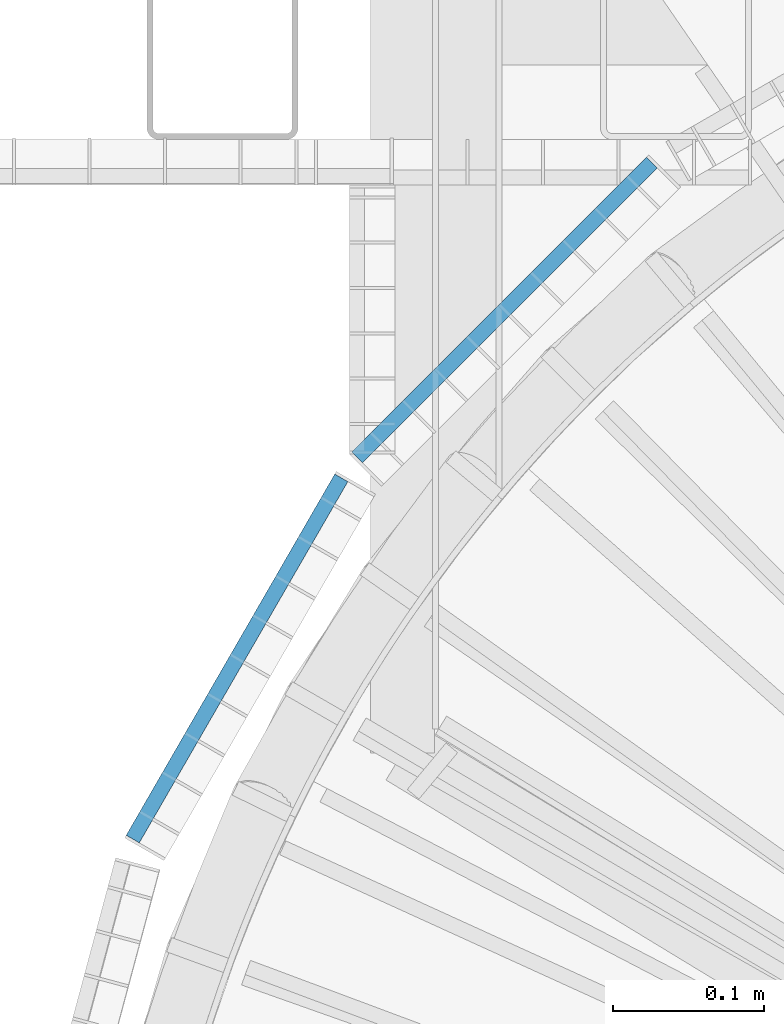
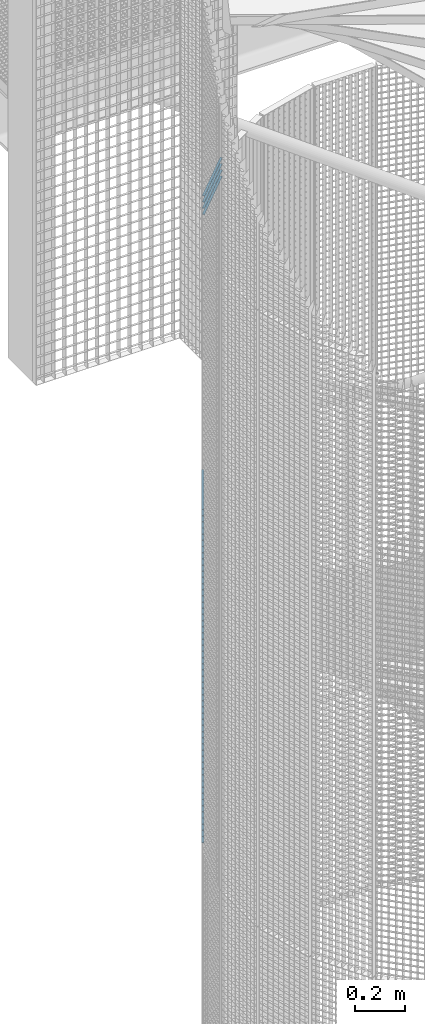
# One storey, part 202 of 1148: 59 beams, 2 elements without a shape of their own.
"""IFC2X3 building model written with IfcOpenShell, lengths in millimetres."""

from ifc_helpers import new_model, si_unit, frame, origin_with_axes, origin_2d_with_axis, place, context, subcontext, project, spatial, rectangle, extrude, material, type_object, element, aggregate, save


model = new_model("IFC2X3")

# Units and contexts
model_context = context("Model", 3, precision=1e-05, world=origin_with_axes())
body_context = subcontext(model_context, "Body", "Model", "MODEL_VIEW")
ifc_project = project(units=[si_unit("LENGTHUNIT", "METRE", prefix="MILLI"), si_unit("AREAUNIT", "SQUARE_METRE"), si_unit("VOLUMEUNIT", "CUBIC_METRE"), si_unit("MASSUNIT", "GRAM", prefix="KILO"), si_unit("TIMEUNIT", "SECOND"), si_unit("PLANEANGLEUNIT", "RADIAN"), si_unit("SOLIDANGLEUNIT", "STERADIAN"), si_unit("THERMODYNAMICTEMPERATUREUNIT", "DEGREE_CELSIUS"), si_unit("LUMINOUSINTENSITYUNIT", "LUMEN")], contexts=[model_context])

# Site, building, storey
site_placement = place(None, origin_with_axes())
site = spatial("IfcSite", under=ifc_project, at=site_placement, Name="Undefined", CompositionType="ELEMENT")
building_placement = place(site_placement, origin_with_axes())
building = spatial("IfcBuilding", under=site, at=building_placement, Name="Undefined", CompositionType="ELEMENT")
storey_placement = place(building_placement, origin_with_axes())
storey = spatial("IfcBuildingStorey", under=building, at=storey_placement, Name="Undefined", CompositionType="ELEMENT", Elevation=0.0)

# Assembly, beams
assembly_1_placement = place(storey_placement, origin_with_axes())
assembly_1 = element("IfcElementAssembly", 1, at=assembly_1_placement, inside=storey, Name="BORDURE", AssemblyPlace="NOTDEFINED", PredefinedType="NOTDEFINED")
ifc_material = material(Name="STEEL/S235JR")
beam_type = type_object("IfcBeamType", Name="PL2*10", PredefinedType="NOTDEFINED")
beam_1_placement = place(assembly_1_placement, frame((-895.303964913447, 676.248044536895, 4650.0), z_axis=(-0.866025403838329, 0.499999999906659, 0.0), x_axis=(-0.49999999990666, -0.866025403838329, 0.0)))
beam_1 = element("IfcBeam", 2, at=beam_1_placement, type_object=beam_type, material=ifc_material, Name="ENTRETOISE", context=body_context, shape_type="SweptSolid", body=[
    extrude(rectangle(XDim=2.0, YDim=10.0, at=origin_2d_with_axis()), frame((275.999999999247, 9.09494701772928e-13, 1.53210777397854e-14), z_axis=(-1.0, 0.0, 0.0), x_axis=(0.0, -1.0, 0.0)), (0.0, 0.0, 1.0), 276.0),
])
beam_2_placement = place(assembly_1_placement, frame((-895.303964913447, 676.248044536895, 4620.0), z_axis=(-0.866025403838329, 0.499999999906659, 0.0), x_axis=(-0.49999999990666, -0.866025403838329, 0.0)))
beam_2 = element("IfcBeam", 3, at=beam_2_placement, type_object=beam_type, material=ifc_material, Name="ENTRETOISE", context=body_context, shape_type="SweptSolid", body=[
    extrude(rectangle(XDim=2.0, YDim=10.0, at=origin_2d_with_axis()), frame((275.999999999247, 9.09494701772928e-13, 1.53210777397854e-14), z_axis=(-1.0, 0.0, 0.0), x_axis=(0.0, -1.0, 0.0)), (0.0, 0.0, 1.0), 276.0),
])
beam_3_placement = place(assembly_1_placement, frame((-895.303964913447, 676.248044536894, 4590.0), z_axis=(-0.866025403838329, 0.499999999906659, 0.0), x_axis=(-0.49999999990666, -0.866025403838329, 0.0)))
beam_3 = element("IfcBeam", 4, at=beam_3_placement, type_object=beam_type, material=ifc_material, Name="ENTRETOISE", context=body_context, shape_type="SweptSolid", body=[
    extrude(rectangle(XDim=2.0, YDim=10.0, at=origin_2d_with_axis()), frame((275.999999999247, 9.09494701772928e-13, 1.53210777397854e-14), z_axis=(-1.0, 0.0, 0.0), x_axis=(0.0, -1.0, 0.0)), (0.0, 0.0, 1.0), 276.0),
])
beam_4_placement = place(assembly_1_placement, frame((-895.303964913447, 676.248044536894, 4560.0), z_axis=(-0.866025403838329, 0.499999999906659, 0.0), x_axis=(-0.49999999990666, -0.866025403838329, 0.0)))
beam_4 = element("IfcBeam", 5, at=beam_4_placement, type_object=beam_type, material=ifc_material, Name="ENTRETOISE", context=body_context, shape_type="SweptSolid", body=[
    extrude(rectangle(XDim=2.0, YDim=10.0, at=origin_2d_with_axis()), frame((275.999999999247, 9.09494701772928e-13, 1.53210777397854e-14), z_axis=(-1.0, 0.0, 0.0), x_axis=(0.0, -1.0, 0.0)), (0.0, 0.0, 1.0), 276.0),
])
beam_5_placement = place(assembly_1_placement, frame((-895.303964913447, 676.248044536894, 4530.0), z_axis=(-0.866025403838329, 0.499999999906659, 0.0), x_axis=(-0.49999999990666, -0.866025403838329, 0.0)))
beam_5 = element("IfcBeam", 6, at=beam_5_placement, type_object=beam_type, material=ifc_material, Name="ENTRETOISE", context=body_context, shape_type="SweptSolid", body=[
    extrude(rectangle(XDim=2.0, YDim=10.0, at=origin_2d_with_axis()), frame((275.999999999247, 9.09494701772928e-13, 1.53210777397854e-14), z_axis=(-1.0, 0.0, 0.0), x_axis=(0.0, -1.0, 0.0)), (0.0, 0.0, 1.0), 276.0),
])
beam_6_placement = place(assembly_1_placement, frame((-895.303964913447, 676.248044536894, 4500.0), z_axis=(-0.866025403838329, 0.499999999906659, 0.0), x_axis=(-0.49999999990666, -0.866025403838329, 0.0)))
beam_6 = element("IfcBeam", 7, at=beam_6_placement, type_object=beam_type, material=ifc_material, Name="ENTRETOISE", context=body_context, shape_type="SweptSolid", body=[
    extrude(rectangle(XDim=2.0, YDim=10.0, at=origin_2d_with_axis()), frame((275.999999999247, 9.09494701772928e-13, 1.53210777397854e-14), z_axis=(-1.0, 0.0, 0.0), x_axis=(0.0, -1.0, 0.0)), (0.0, 0.0, 1.0), 276.0),
])
beam_7_placement = place(assembly_1_placement, frame((-895.303964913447, 676.248044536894, 4470.0), z_axis=(-0.866025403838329, 0.499999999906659, 0.0), x_axis=(-0.49999999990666, -0.866025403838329, 0.0)))
beam_7 = element("IfcBeam", 8, at=beam_7_placement, type_object=beam_type, material=ifc_material, Name="ENTRETOISE", context=body_context, shape_type="SweptSolid", body=[
    extrude(rectangle(XDim=2.0, YDim=10.0, at=origin_2d_with_axis()), frame((275.999999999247, 9.09494701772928e-13, 1.53210777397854e-14), z_axis=(-1.0, 0.0, 0.0), x_axis=(0.0, -1.0, 0.0)), (0.0, 0.0, 1.0), 276.0),
])
beam_8_placement = place(assembly_1_placement, frame((-895.303964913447, 676.248044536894, 4440.0), z_axis=(-0.866025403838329, 0.499999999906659, 0.0), x_axis=(-0.49999999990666, -0.866025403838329, 0.0)))
beam_8 = element("IfcBeam", 9, at=beam_8_placement, type_object=beam_type, material=ifc_material, Name="ENTRETOISE", context=body_context, shape_type="SweptSolid", body=[
    extrude(rectangle(XDim=2.0, YDim=10.0, at=origin_2d_with_axis()), frame((275.999999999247, 9.09494701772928e-13, 1.53210777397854e-14), z_axis=(-1.0, 0.0, 0.0), x_axis=(0.0, -1.0, 0.0)), (0.0, 0.0, 1.0), 276.0),
])
beam_9_placement = place(assembly_1_placement, frame((-895.303964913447, 676.248044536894, 4410.0), z_axis=(-0.866025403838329, 0.499999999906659, 0.0), x_axis=(-0.49999999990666, -0.866025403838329, 0.0)))
beam_9 = element("IfcBeam", 10, at=beam_9_placement, type_object=beam_type, material=ifc_material, Name="ENTRETOISE", context=body_context, shape_type="SweptSolid", body=[
    extrude(rectangle(XDim=2.0, YDim=10.0, at=origin_2d_with_axis()), frame((275.999999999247, 9.09494701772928e-13, 1.53210777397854e-14), z_axis=(-1.0, 0.0, 0.0), x_axis=(0.0, -1.0, 0.0)), (0.0, 0.0, 1.0), 276.0),
])
beam_10_placement = place(assembly_1_placement, frame((-895.303964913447, 676.248044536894, 4380.0), z_axis=(-0.866025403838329, 0.499999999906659, 0.0), x_axis=(-0.49999999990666, -0.866025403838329, 0.0)))
beam_10 = element("IfcBeam", 11, at=beam_10_placement, type_object=beam_type, material=ifc_material, Name="ENTRETOISE", context=body_context, shape_type="SweptSolid", body=[
    extrude(rectangle(XDim=2.0, YDim=10.0, at=origin_2d_with_axis()), frame((275.999999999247, 9.09494701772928e-13, 1.53210777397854e-14), z_axis=(-1.0, 0.0, 0.0), x_axis=(0.0, -1.0, 0.0)), (0.0, 0.0, 1.0), 276.0),
])
beam_11_placement = place(assembly_1_placement, frame((-895.303964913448, 676.248044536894, 4350.0), z_axis=(-0.866025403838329, 0.499999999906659, 0.0), x_axis=(-0.49999999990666, -0.866025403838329, 0.0)))
beam_11 = element("IfcBeam", 12, at=beam_11_placement, type_object=beam_type, material=ifc_material, Name="ENTRETOISE", context=body_context, shape_type="SweptSolid", body=[
    extrude(rectangle(XDim=2.0, YDim=10.0, at=origin_2d_with_axis()), frame((275.999999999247, 9.09494701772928e-13, 1.53210777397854e-14), z_axis=(-1.0, 0.0, 0.0), x_axis=(0.0, -1.0, 0.0)), (0.0, 0.0, 1.0), 276.0),
])
beam_12_placement = place(assembly_1_placement, frame((-895.303964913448, 676.248044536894, 4320.0), z_axis=(-0.866025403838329, 0.499999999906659, 0.0), x_axis=(-0.49999999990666, -0.866025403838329, 0.0)))
beam_12 = element("IfcBeam", 13, at=beam_12_placement, type_object=beam_type, material=ifc_material, Name="ENTRETOISE", context=body_context, shape_type="SweptSolid", body=[
    extrude(rectangle(XDim=2.0, YDim=10.0, at=origin_2d_with_axis()), frame((275.999999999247, 9.09494701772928e-13, 1.53210777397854e-14), z_axis=(-1.0, 0.0, 0.0), x_axis=(0.0, -1.0, 0.0)), (0.0, 0.0, 1.0), 276.0),
])
beam_13_placement = place(assembly_1_placement, frame((-895.303964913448, 676.248044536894, 4290.0), z_axis=(-0.866025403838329, 0.499999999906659, 0.0), x_axis=(-0.49999999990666, -0.866025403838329, 0.0)))
beam_13 = element("IfcBeam", 14, at=beam_13_placement, type_object=beam_type, material=ifc_material, Name="ENTRETOISE", context=body_context, shape_type="SweptSolid", body=[
    extrude(rectangle(XDim=2.0, YDim=10.0, at=origin_2d_with_axis()), frame((275.999999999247, 9.09494701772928e-13, 1.53210777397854e-14), z_axis=(-1.0, 0.0, 0.0), x_axis=(0.0, -1.0, 0.0)), (0.0, 0.0, 1.0), 276.0),
])
beam_14_placement = place(assembly_1_placement, frame((-895.303964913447, 676.248044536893, 4260.0), z_axis=(-0.866025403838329, 0.499999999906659, 0.0), x_axis=(-0.49999999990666, -0.866025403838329, 0.0)))
beam_14 = element("IfcBeam", 15, at=beam_14_placement, type_object=beam_type, material=ifc_material, Name="ENTRETOISE", context=body_context, shape_type="SweptSolid", body=[
    extrude(rectangle(XDim=2.0, YDim=10.0, at=origin_2d_with_axis()), frame((275.999999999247, 9.09494701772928e-13, 1.53210777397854e-14), z_axis=(-1.0, 0.0, 0.0), x_axis=(0.0, -1.0, 0.0)), (0.0, 0.0, 1.0), 276.0),
])
beam_15_placement = place(assembly_1_placement, frame((-895.303964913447, 676.248044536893, 4230.0), z_axis=(-0.866025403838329, 0.499999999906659, 0.0), x_axis=(-0.49999999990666, -0.866025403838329, 0.0)))
beam_15 = element("IfcBeam", 16, at=beam_15_placement, type_object=beam_type, material=ifc_material, Name="ENTRETOISE", context=body_context, shape_type="SweptSolid", body=[
    extrude(rectangle(XDim=2.0, YDim=10.0, at=origin_2d_with_axis()), frame((275.999999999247, 9.09494701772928e-13, 1.53210777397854e-14), z_axis=(-1.0, 0.0, 0.0), x_axis=(0.0, -1.0, 0.0)), (0.0, 0.0, 1.0), 276.0),
])
beam_16_placement = place(assembly_1_placement, frame((-895.303964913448, 676.248044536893, 4200.0), z_axis=(-0.866025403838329, 0.499999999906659, 0.0), x_axis=(-0.49999999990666, -0.866025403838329, 0.0)))
beam_16 = element("IfcBeam", 17, at=beam_16_placement, type_object=beam_type, material=ifc_material, Name="ENTRETOISE", context=body_context, shape_type="SweptSolid", body=[
    extrude(rectangle(XDim=2.0, YDim=10.0, at=origin_2d_with_axis()), frame((275.999999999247, 9.09494701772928e-13, 1.53210777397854e-14), z_axis=(-1.0, 0.0, 0.0), x_axis=(0.0, -1.0, 0.0)), (0.0, 0.0, 1.0), 276.0),
])
beam_17_placement = place(assembly_1_placement, frame((-895.303964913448, 676.248044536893, 4170.0), z_axis=(-0.866025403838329, 0.499999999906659, 0.0), x_axis=(-0.49999999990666, -0.866025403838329, 0.0)))
beam_17 = element("IfcBeam", 18, at=beam_17_placement, type_object=beam_type, material=ifc_material, Name="ENTRETOISE", context=body_context, shape_type="SweptSolid", body=[
    extrude(rectangle(XDim=2.0, YDim=10.0, at=origin_2d_with_axis()), frame((275.999999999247, 9.09494701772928e-13, 1.53210777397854e-14), z_axis=(-1.0, 0.0, 0.0), x_axis=(0.0, -1.0, 0.0)), (0.0, 0.0, 1.0), 276.0),
])
beam_18_placement = place(assembly_1_placement, frame((-895.303964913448, 676.248044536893, 4140.0), z_axis=(-0.866025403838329, 0.499999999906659, 0.0), x_axis=(-0.49999999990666, -0.866025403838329, 0.0)))
beam_18 = element("IfcBeam", 19, at=beam_18_placement, type_object=beam_type, material=ifc_material, Name="ENTRETOISE", context=body_context, shape_type="SweptSolid", body=[
    extrude(rectangle(XDim=2.0, YDim=10.0, at=origin_2d_with_axis()), frame((275.999999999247, 9.09494701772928e-13, 1.53210777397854e-14), z_axis=(-1.0, 0.0, 0.0), x_axis=(0.0, -1.0, 0.0)), (0.0, 0.0, 1.0), 276.0),
])
beam_19_placement = place(assembly_1_placement, frame((-895.303964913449, 676.248044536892, 3720.0), z_axis=(-0.866025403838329, 0.499999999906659, 0.0), x_axis=(-0.49999999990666, -0.866025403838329, 0.0)))
beam_19 = element("IfcBeam", 20, at=beam_19_placement, type_object=beam_type, material=ifc_material, Name="ENTRETOISE", context=body_context, shape_type="SweptSolid", body=[
    extrude(rectangle(XDim=2.0, YDim=10.0, at=origin_2d_with_axis()), frame((275.999999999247, 9.09494701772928e-13, 1.53210777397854e-14), z_axis=(-1.0, 0.0, 0.0), x_axis=(0.0, -1.0, 0.0)), (0.0, 0.0, 1.0), 276.0),
])
beam_20_placement = place(assembly_1_placement, frame((-895.303964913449, 676.248044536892, 3690.0), z_axis=(-0.866025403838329, 0.499999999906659, 0.0), x_axis=(-0.49999999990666, -0.866025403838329, 0.0)))
beam_20 = element("IfcBeam", 21, at=beam_20_placement, type_object=beam_type, material=ifc_material, Name="ENTRETOISE", context=body_context, shape_type="SweptSolid", body=[
    extrude(rectangle(XDim=2.0, YDim=10.0, at=origin_2d_with_axis()), frame((275.999999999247, 9.09494701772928e-13, 1.53210777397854e-14), z_axis=(-1.0, 0.0, 0.0), x_axis=(0.0, -1.0, 0.0)), (0.0, 0.0, 1.0), 276.0),
])
beam_21_placement = place(assembly_1_placement, frame((-895.303964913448, 676.248044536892, 3750.0), z_axis=(-0.866025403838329, 0.499999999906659, 0.0), x_axis=(-0.49999999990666, -0.866025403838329, 0.0)))
beam_21 = element("IfcBeam", 22, at=beam_21_placement, type_object=beam_type, material=ifc_material, Name="ENTRETOISE", context=body_context, shape_type="SweptSolid", body=[
    extrude(rectangle(XDim=2.0, YDim=10.0, at=origin_2d_with_axis()), frame((275.999999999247, 9.09494701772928e-13, 1.53210777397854e-14), z_axis=(-1.0, 0.0, 0.0), x_axis=(0.0, -1.0, 0.0)), (0.0, 0.0, 1.0), 276.0),
])
beam_22_placement = place(assembly_1_placement, frame((-895.303964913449, 676.248044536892, 3660.0), z_axis=(-0.866025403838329, 0.499999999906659, 0.0), x_axis=(-0.49999999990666, -0.866025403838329, 0.0)))
beam_22 = element("IfcBeam", 23, at=beam_22_placement, type_object=beam_type, material=ifc_material, Name="ENTRETOISE", context=body_context, shape_type="SweptSolid", body=[
    extrude(rectangle(XDim=2.0, YDim=10.0, at=origin_2d_with_axis()), frame((275.999999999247, 9.09494701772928e-13, 1.53210777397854e-14), z_axis=(-1.0, 0.0, 0.0), x_axis=(0.0, -1.0, 0.0)), (0.0, 0.0, 1.0), 276.0),
])
beam_23_placement = place(assembly_1_placement, frame((-895.303964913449, 676.248044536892, 3630.0), z_axis=(-0.866025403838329, 0.499999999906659, 0.0), x_axis=(-0.49999999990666, -0.866025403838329, 0.0)))
beam_23 = element("IfcBeam", 24, at=beam_23_placement, type_object=beam_type, material=ifc_material, Name="ENTRETOISE", context=body_context, shape_type="SweptSolid", body=[
    extrude(rectangle(XDim=2.0, YDim=10.0, at=origin_2d_with_axis()), frame((275.999999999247, 9.09494701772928e-13, 1.53210777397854e-14), z_axis=(-1.0, 0.0, 0.0), x_axis=(0.0, -1.0, 0.0)), (0.0, 0.0, 1.0), 276.0),
])
beam_24_placement = place(assembly_1_placement, frame((-895.303964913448, 676.248044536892, 3780.0), z_axis=(-0.866025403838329, 0.499999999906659, 0.0), x_axis=(-0.49999999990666, -0.866025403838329, 0.0)))
beam_24 = element("IfcBeam", 25, at=beam_24_placement, type_object=beam_type, material=ifc_material, Name="ENTRETOISE", context=body_context, shape_type="SweptSolid", body=[
    extrude(rectangle(XDim=2.0, YDim=10.0, at=origin_2d_with_axis()), frame((275.999999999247, 9.09494701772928e-13, 1.53210777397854e-14), z_axis=(-1.0, 0.0, 0.0), x_axis=(0.0, -1.0, 0.0)), (0.0, 0.0, 1.0), 276.0),
])
beam_25_placement = place(assembly_1_placement, frame((-895.303964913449, 676.248044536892, 3600.0), z_axis=(-0.866025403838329, 0.499999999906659, 0.0), x_axis=(-0.49999999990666, -0.866025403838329, 0.0)))
beam_25 = element("IfcBeam", 26, at=beam_25_placement, type_object=beam_type, material=ifc_material, Name="ENTRETOISE", context=body_context, shape_type="SweptSolid", body=[
    extrude(rectangle(XDim=2.0, YDim=10.0, at=origin_2d_with_axis()), frame((275.999999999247, 9.09494701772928e-13, 1.53210777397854e-14), z_axis=(-1.0, 0.0, 0.0), x_axis=(0.0, -1.0, 0.0)), (0.0, 0.0, 1.0), 276.0),
])
beam_26_placement = place(assembly_1_placement, frame((-895.303964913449, 676.248044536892, 3810.0), z_axis=(-0.866025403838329, 0.499999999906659, 0.0), x_axis=(-0.49999999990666, -0.866025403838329, 0.0)))
beam_26 = element("IfcBeam", 27, at=beam_26_placement, type_object=beam_type, material=ifc_material, Name="ENTRETOISE", context=body_context, shape_type="SweptSolid", body=[
    extrude(rectangle(XDim=2.0, YDim=10.0, at=origin_2d_with_axis()), frame((275.999999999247, 9.09494701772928e-13, 1.53210777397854e-14), z_axis=(-1.0, 0.0, 0.0), x_axis=(0.0, -1.0, 0.0)), (0.0, 0.0, 1.0), 276.0),
])
beam_27_placement = place(assembly_1_placement, frame((-895.303964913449, 676.248044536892, 3570.0), z_axis=(-0.866025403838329, 0.499999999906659, 0.0), x_axis=(-0.49999999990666, -0.866025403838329, 0.0)))
beam_27 = element("IfcBeam", 28, at=beam_27_placement, type_object=beam_type, material=ifc_material, Name="ENTRETOISE", context=body_context, shape_type="SweptSolid", body=[
    extrude(rectangle(XDim=2.0, YDim=10.0, at=origin_2d_with_axis()), frame((275.999999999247, 9.09494701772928e-13, 1.53210777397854e-14), z_axis=(-1.0, 0.0, 0.0), x_axis=(0.0, -1.0, 0.0)), (0.0, 0.0, 1.0), 276.0),
])
beam_28_placement = place(assembly_1_placement, frame((-895.303964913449, 676.248044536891, 3540.0), z_axis=(-0.866025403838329, 0.499999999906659, 0.0), x_axis=(-0.49999999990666, -0.866025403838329, 0.0)))
beam_28 = element("IfcBeam", 29, at=beam_28_placement, type_object=beam_type, material=ifc_material, Name="ENTRETOISE", context=body_context, shape_type="SweptSolid", body=[
    extrude(rectangle(XDim=2.0, YDim=10.0, at=origin_2d_with_axis()), frame((275.999999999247, 9.09494701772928e-13, 1.53210777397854e-14), z_axis=(-1.0, 0.0, 0.0), x_axis=(0.0, -1.0, 0.0)), (0.0, 0.0, 1.0), 276.0),
])
beam_29_placement = place(assembly_1_placement, frame((-895.303964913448, 676.248044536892, 3840.0), z_axis=(-0.866025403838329, 0.499999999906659, 0.0), x_axis=(-0.49999999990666, -0.866025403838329, 0.0)))
beam_29 = element("IfcBeam", 30, at=beam_29_placement, type_object=beam_type, material=ifc_material, Name="ENTRETOISE", context=body_context, shape_type="SweptSolid", body=[
    extrude(rectangle(XDim=2.0, YDim=10.0, at=origin_2d_with_axis()), frame((275.999999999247, 9.09494701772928e-13, 1.53210777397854e-14), z_axis=(-1.0, 0.0, 0.0), x_axis=(0.0, -1.0, 0.0)), (0.0, 0.0, 1.0), 276.0),
])
beam_30_placement = place(assembly_1_placement, frame((-895.303964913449, 676.248044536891, 3510.0), z_axis=(-0.866025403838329, 0.499999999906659, 0.0), x_axis=(-0.49999999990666, -0.866025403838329, 0.0)))
beam_30 = element("IfcBeam", 31, at=beam_30_placement, type_object=beam_type, material=ifc_material, Name="ENTRETOISE", context=body_context, shape_type="SweptSolid", body=[
    extrude(rectangle(XDim=2.0, YDim=10.0, at=origin_2d_with_axis()), frame((275.999999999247, 9.09494701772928e-13, 1.53210777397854e-14), z_axis=(-1.0, 0.0, 0.0), x_axis=(0.0, -1.0, 0.0)), (0.0, 0.0, 1.0), 276.0),
])
beam_31_placement = place(assembly_1_placement, frame((-895.303964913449, 676.248044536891, 3480.0), z_axis=(-0.866025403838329, 0.499999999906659, 0.0), x_axis=(-0.49999999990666, -0.866025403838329, 0.0)))
beam_31 = element("IfcBeam", 32, at=beam_31_placement, type_object=beam_type, material=ifc_material, Name="ENTRETOISE", context=body_context, shape_type="SweptSolid", body=[
    extrude(rectangle(XDim=2.0, YDim=10.0, at=origin_2d_with_axis()), frame((275.999999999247, 9.09494701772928e-13, 1.53210777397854e-14), z_axis=(-1.0, 0.0, 0.0), x_axis=(0.0, -1.0, 0.0)), (0.0, 0.0, 1.0), 276.0),
])
beam_32_placement = place(assembly_1_placement, frame((-895.303964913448, 676.248044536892, 3870.0), z_axis=(-0.866025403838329, 0.499999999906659, 0.0), x_axis=(-0.49999999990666, -0.866025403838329, 0.0)))
beam_32 = element("IfcBeam", 33, at=beam_32_placement, type_object=beam_type, material=ifc_material, Name="ENTRETOISE", context=body_context, shape_type="SweptSolid", body=[
    extrude(rectangle(XDim=2.0, YDim=10.0, at=origin_2d_with_axis()), frame((275.999999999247, 9.09494701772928e-13, 1.53210777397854e-14), z_axis=(-1.0, 0.0, 0.0), x_axis=(0.0, -1.0, 0.0)), (0.0, 0.0, 1.0), 276.0),
])
beam_33_placement = place(assembly_1_placement, frame((-895.303964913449, 676.248044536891, 3450.0), z_axis=(-0.866025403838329, 0.499999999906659, 0.0), x_axis=(-0.49999999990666, -0.866025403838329, 0.0)))
beam_33 = element("IfcBeam", 34, at=beam_33_placement, type_object=beam_type, material=ifc_material, Name="ENTRETOISE", context=body_context, shape_type="SweptSolid", body=[
    extrude(rectangle(XDim=2.0, YDim=10.0, at=origin_2d_with_axis()), frame((275.999999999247, 9.09494701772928e-13, 1.53210777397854e-14), z_axis=(-1.0, 0.0, 0.0), x_axis=(0.0, -1.0, 0.0)), (0.0, 0.0, 1.0), 276.0),
])
beam_34_placement = place(assembly_1_placement, frame((-895.303964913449, 676.248044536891, 3420.0), z_axis=(-0.866025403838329, 0.499999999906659, 0.0), x_axis=(-0.49999999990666, -0.866025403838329, 0.0)))
beam_34 = element("IfcBeam", 35, at=beam_34_placement, type_object=beam_type, material=ifc_material, Name="ENTRETOISE", context=body_context, shape_type="SweptSolid", body=[
    extrude(rectangle(XDim=2.0, YDim=10.0, at=origin_2d_with_axis()), frame((275.999999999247, 9.09494701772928e-13, 1.53210777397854e-14), z_axis=(-1.0, 0.0, 0.0), x_axis=(0.0, -1.0, 0.0)), (0.0, 0.0, 1.0), 276.0),
])
beam_35_placement = place(assembly_1_placement, frame((-895.303964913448, 676.248044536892, 3900.0), z_axis=(-0.866025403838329, 0.499999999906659, 0.0), x_axis=(-0.49999999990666, -0.866025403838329, 0.0)))
beam_35 = element("IfcBeam", 36, at=beam_35_placement, type_object=beam_type, material=ifc_material, Name="ENTRETOISE", context=body_context, shape_type="SweptSolid", body=[
    extrude(rectangle(XDim=2.0, YDim=10.0, at=origin_2d_with_axis()), frame((275.999999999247, 9.09494701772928e-13, 1.53210777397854e-14), z_axis=(-1.0, 0.0, 0.0), x_axis=(0.0, -1.0, 0.0)), (0.0, 0.0, 1.0), 276.0),
])
beam_36_placement = place(assembly_1_placement, frame((-895.30396491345, 676.248044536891, 3390.0), z_axis=(-0.866025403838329, 0.499999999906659, 0.0), x_axis=(-0.49999999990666, -0.866025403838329, 0.0)))
beam_36 = element("IfcBeam", 37, at=beam_36_placement, type_object=beam_type, material=ifc_material, Name="ENTRETOISE", context=body_context, shape_type="SweptSolid", body=[
    extrude(rectangle(XDim=2.0, YDim=10.0, at=origin_2d_with_axis()), frame((275.999999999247, 9.09494701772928e-13, 1.53210777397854e-14), z_axis=(-1.0, 0.0, 0.0), x_axis=(0.0, -1.0, 0.0)), (0.0, 0.0, 1.0), 276.0),
])
beam_37_placement = place(assembly_1_placement, frame((-895.303964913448, 676.248044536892, 3930.0), z_axis=(-0.866025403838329, 0.499999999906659, 0.0), x_axis=(-0.49999999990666, -0.866025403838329, 0.0)))
beam_37 = element("IfcBeam", 38, at=beam_37_placement, type_object=beam_type, material=ifc_material, Name="ENTRETOISE", context=body_context, shape_type="SweptSolid", body=[
    extrude(rectangle(XDim=2.0, YDim=10.0, at=origin_2d_with_axis()), frame((275.999999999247, 9.09494701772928e-13, 1.53210777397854e-14), z_axis=(-1.0, 0.0, 0.0), x_axis=(0.0, -1.0, 0.0)), (0.0, 0.0, 1.0), 276.0),
])
beam_38_placement = place(assembly_1_placement, frame((-895.30396491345, 676.248044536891, 3360.0), z_axis=(-0.866025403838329, 0.499999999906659, 0.0), x_axis=(-0.49999999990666, -0.866025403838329, 0.0)))
beam_38 = element("IfcBeam", 39, at=beam_38_placement, type_object=beam_type, material=ifc_material, Name="ENTRETOISE", context=body_context, shape_type="SweptSolid", body=[
    extrude(rectangle(XDim=2.0, YDim=10.0, at=origin_2d_with_axis()), frame((275.999999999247, 9.09494701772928e-13, 1.53210777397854e-14), z_axis=(-1.0, 0.0, 0.0), x_axis=(0.0, -1.0, 0.0)), (0.0, 0.0, 1.0), 276.0),
])
beam_39_placement = place(assembly_1_placement, frame((-895.303964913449, 676.248044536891, 3330.0), z_axis=(-0.866025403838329, 0.499999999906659, 0.0), x_axis=(-0.49999999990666, -0.866025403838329, 0.0)))
beam_39 = element("IfcBeam", 40, at=beam_39_placement, type_object=beam_type, material=ifc_material, Name="ENTRETOISE", context=body_context, shape_type="SweptSolid", body=[
    extrude(rectangle(XDim=2.0, YDim=10.0, at=origin_2d_with_axis()), frame((275.999999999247, 9.09494701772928e-13, 1.53210777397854e-14), z_axis=(-1.0, 0.0, 0.0), x_axis=(0.0, -1.0, 0.0)), (0.0, 0.0, 1.0), 276.0),
])
beam_40_placement = place(assembly_1_placement, frame((-895.303964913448, 676.248044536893, 3960.0), z_axis=(-0.866025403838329, 0.499999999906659, 0.0), x_axis=(-0.49999999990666, -0.866025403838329, 0.0)))
beam_40 = element("IfcBeam", 41, at=beam_40_placement, type_object=beam_type, material=ifc_material, Name="ENTRETOISE", context=body_context, shape_type="SweptSolid", body=[
    extrude(rectangle(XDim=2.0, YDim=10.0, at=origin_2d_with_axis()), frame((275.999999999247, 9.09494701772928e-13, 1.53210777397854e-14), z_axis=(-1.0, 0.0, 0.0), x_axis=(0.0, -1.0, 0.0)), (0.0, 0.0, 1.0), 276.0),
])
beam_41_placement = place(assembly_1_placement, frame((-895.303964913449, 676.248044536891, 3300.0), z_axis=(-0.866025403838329, 0.499999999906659, 0.0), x_axis=(-0.49999999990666, -0.866025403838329, 0.0)))
beam_41 = element("IfcBeam", 42, at=beam_41_placement, type_object=beam_type, material=ifc_material, Name="ENTRETOISE", context=body_context, shape_type="SweptSolid", body=[
    extrude(rectangle(XDim=2.0, YDim=10.0, at=origin_2d_with_axis()), frame((275.999999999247, 9.09494701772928e-13, 1.53210777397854e-14), z_axis=(-1.0, 0.0, 0.0), x_axis=(0.0, -1.0, 0.0)), (0.0, 0.0, 1.0), 276.0),
])
beam_42_placement = place(assembly_1_placement, frame((-895.303964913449, 676.248044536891, 3270.0), z_axis=(-0.866025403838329, 0.499999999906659, 0.0), x_axis=(-0.49999999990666, -0.866025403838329, 0.0)))
beam_42 = element("IfcBeam", 43, at=beam_42_placement, type_object=beam_type, material=ifc_material, Name="ENTRETOISE", context=body_context, shape_type="SweptSolid", body=[
    extrude(rectangle(XDim=2.0, YDim=10.0, at=origin_2d_with_axis()), frame((275.999999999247, 9.09494701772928e-13, 1.53210777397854e-14), z_axis=(-1.0, 0.0, 0.0), x_axis=(0.0, -1.0, 0.0)), (0.0, 0.0, 1.0), 276.0),
])
beam_43_placement = place(assembly_1_placement, frame((-895.303964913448, 676.248044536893, 3990.0), z_axis=(-0.866025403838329, 0.499999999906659, 0.0), x_axis=(-0.49999999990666, -0.866025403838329, 0.0)))
beam_43 = element("IfcBeam", 44, at=beam_43_placement, type_object=beam_type, material=ifc_material, Name="ENTRETOISE", context=body_context, shape_type="SweptSolid", body=[
    extrude(rectangle(XDim=2.0, YDim=10.0, at=origin_2d_with_axis()), frame((275.999999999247, 9.09494701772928e-13, 1.53210777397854e-14), z_axis=(-1.0, 0.0, 0.0), x_axis=(0.0, -1.0, 0.0)), (0.0, 0.0, 1.0), 276.0),
])
beam_44_placement = place(assembly_1_placement, frame((-895.303964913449, 676.24804453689, 3240.0), z_axis=(-0.866025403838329, 0.499999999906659, 0.0), x_axis=(-0.49999999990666, -0.866025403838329, 0.0)))
beam_44 = element("IfcBeam", 45, at=beam_44_placement, type_object=beam_type, material=ifc_material, Name="ENTRETOISE", context=body_context, shape_type="SweptSolid", body=[
    extrude(rectangle(XDim=2.0, YDim=10.0, at=origin_2d_with_axis()), frame((275.999999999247, 9.09494701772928e-13, 1.53210777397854e-14), z_axis=(-1.0, 0.0, 0.0), x_axis=(0.0, -1.0, 0.0)), (0.0, 0.0, 1.0), 276.0),
])
beam_45_placement = place(assembly_1_placement, frame((-895.303964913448, 676.248044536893, 4020.0), z_axis=(-0.866025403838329, 0.499999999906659, 0.0), x_axis=(-0.49999999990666, -0.866025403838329, 0.0)))
beam_45 = element("IfcBeam", 46, at=beam_45_placement, type_object=beam_type, material=ifc_material, Name="ENTRETOISE", context=body_context, shape_type="SweptSolid", body=[
    extrude(rectangle(XDim=2.0, YDim=10.0, at=origin_2d_with_axis()), frame((275.999999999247, 9.09494701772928e-13, 1.53210777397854e-14), z_axis=(-1.0, 0.0, 0.0), x_axis=(0.0, -1.0, 0.0)), (0.0, 0.0, 1.0), 276.0),
])
beam_46_placement = place(assembly_1_placement, frame((-895.303964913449, 676.24804453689, 3210.0), z_axis=(-0.866025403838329, 0.499999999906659, 0.0), x_axis=(-0.49999999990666, -0.866025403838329, 0.0)))
beam_46 = element("IfcBeam", 47, at=beam_46_placement, type_object=beam_type, material=ifc_material, Name="ENTRETOISE", context=body_context, shape_type="SweptSolid", body=[
    extrude(rectangle(XDim=2.0, YDim=10.0, at=origin_2d_with_axis()), frame((275.999999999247, 9.09494701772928e-13, 1.53210777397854e-14), z_axis=(-1.0, 0.0, 0.0), x_axis=(0.0, -1.0, 0.0)), (0.0, 0.0, 1.0), 276.0),
])
beam_47_placement = place(assembly_1_placement, frame((-895.30396491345, 676.24804453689, 3180.0), z_axis=(-0.866025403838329, 0.499999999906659, 0.0), x_axis=(-0.49999999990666, -0.866025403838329, 0.0)))
beam_47 = element("IfcBeam", 48, at=beam_47_placement, type_object=beam_type, material=ifc_material, Name="ENTRETOISE", context=body_context, shape_type="SweptSolid", body=[
    extrude(rectangle(XDim=2.0, YDim=10.0, at=origin_2d_with_axis()), frame((275.999999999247, 9.09494701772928e-13, 1.53210777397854e-14), z_axis=(-1.0, 0.0, 0.0), x_axis=(0.0, -1.0, 0.0)), (0.0, 0.0, 1.0), 276.0),
])
beam_48_placement = place(assembly_1_placement, frame((-895.303964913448, 676.248044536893, 4050.0), z_axis=(-0.866025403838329, 0.499999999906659, 0.0), x_axis=(-0.49999999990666, -0.866025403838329, 0.0)))
beam_48 = element("IfcBeam", 49, at=beam_48_placement, type_object=beam_type, material=ifc_material, Name="ENTRETOISE", context=body_context, shape_type="SweptSolid", body=[
    extrude(rectangle(XDim=2.0, YDim=10.0, at=origin_2d_with_axis()), frame((275.999999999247, 9.09494701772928e-13, 1.53210777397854e-14), z_axis=(-1.0, 0.0, 0.0), x_axis=(0.0, -1.0, 0.0)), (0.0, 0.0, 1.0), 276.0),
])
beam_49_placement = place(assembly_1_placement, frame((-895.30396491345, 676.24804453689, 3150.0), z_axis=(-0.866025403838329, 0.499999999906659, 0.0), x_axis=(-0.49999999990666, -0.866025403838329, 0.0)))
beam_49 = element("IfcBeam", 50, at=beam_49_placement, type_object=beam_type, material=ifc_material, Name="ENTRETOISE", context=body_context, shape_type="SweptSolid", body=[
    extrude(rectangle(XDim=2.0, YDim=10.0, at=origin_2d_with_axis()), frame((275.999999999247, 9.09494701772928e-13, 1.53210777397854e-14), z_axis=(-1.0, 0.0, 0.0), x_axis=(0.0, -1.0, 0.0)), (0.0, 0.0, 1.0), 276.0),
])
beam_50_placement = place(assembly_1_placement, frame((-895.30396491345, 676.24804453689, 3120.0), z_axis=(-0.866025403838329, 0.499999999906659, 0.0), x_axis=(-0.49999999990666, -0.866025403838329, 0.0)))
beam_50 = element("IfcBeam", 51, at=beam_50_placement, type_object=beam_type, material=ifc_material, Name="ENTRETOISE", context=body_context, shape_type="SweptSolid", body=[
    extrude(rectangle(XDim=2.0, YDim=10.0, at=origin_2d_with_axis()), frame((275.999999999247, 9.09494701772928e-13, 1.53210777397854e-14), z_axis=(-1.0, 0.0, 0.0), x_axis=(0.0, -1.0, 0.0)), (0.0, 0.0, 1.0), 276.0),
])
beam_51_placement = place(assembly_1_placement, frame((-895.303964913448, 676.248044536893, 4080.0), z_axis=(-0.866025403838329, 0.499999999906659, 0.0), x_axis=(-0.49999999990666, -0.866025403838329, 0.0)))
beam_51 = element("IfcBeam", 52, at=beam_51_placement, type_object=beam_type, material=ifc_material, Name="ENTRETOISE", context=body_context, shape_type="SweptSolid", body=[
    extrude(rectangle(XDim=2.0, YDim=10.0, at=origin_2d_with_axis()), frame((275.999999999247, 9.09494701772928e-13, 1.53210777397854e-14), z_axis=(-1.0, 0.0, 0.0), x_axis=(0.0, -1.0, 0.0)), (0.0, 0.0, 1.0), 276.0),
])
beam_52_placement = place(assembly_1_placement, frame((-895.30396491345, 676.24804453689, 3090.0), z_axis=(-0.866025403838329, 0.499999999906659, 0.0), x_axis=(-0.49999999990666, -0.866025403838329, 0.0)))
beam_52 = element("IfcBeam", 53, at=beam_52_placement, type_object=beam_type, material=ifc_material, Name="ENTRETOISE", context=body_context, shape_type="SweptSolid", body=[
    extrude(rectangle(XDim=2.0, YDim=10.0, at=origin_2d_with_axis()), frame((275.999999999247, 9.09494701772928e-13, 1.53210777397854e-14), z_axis=(-1.0, 0.0, 0.0), x_axis=(0.0, -1.0, 0.0)), (0.0, 0.0, 1.0), 276.0),
])
beam_53_placement = place(assembly_1_placement, frame((-895.30396491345, 676.24804453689, 3060.0), z_axis=(-0.866025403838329, 0.499999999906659, 0.0), x_axis=(-0.49999999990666, -0.866025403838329, 0.0)))
beam_53 = element("IfcBeam", 54, at=beam_53_placement, type_object=beam_type, material=ifc_material, Name="ENTRETOISE", context=body_context, shape_type="SweptSolid", body=[
    extrude(rectangle(XDim=2.0, YDim=10.0, at=origin_2d_with_axis()), frame((275.999999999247, 9.09494701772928e-13, 1.53210777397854e-14), z_axis=(-1.0, 0.0, 0.0), x_axis=(0.0, -1.0, 0.0)), (0.0, 0.0, 1.0), 276.0),
])
beam_54_placement = place(assembly_1_placement, frame((-895.303964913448, 676.248044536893, 4110.0), z_axis=(-0.866025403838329, 0.499999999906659, 0.0), x_axis=(-0.49999999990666, -0.866025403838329, 0.0)))
beam_54 = element("IfcBeam", 55, at=beam_54_placement, type_object=beam_type, material=ifc_material, Name="ENTRETOISE", context=body_context, shape_type="SweptSolid", body=[
    extrude(rectangle(XDim=2.0, YDim=10.0, at=origin_2d_with_axis()), frame((275.999999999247, 9.09494701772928e-13, 1.53210777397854e-14), z_axis=(-1.0, 0.0, 0.0), x_axis=(0.0, -1.0, 0.0)), (0.0, 0.0, 1.0), 276.0),
])
beam_55_placement = place(assembly_1_placement, frame((-895.30396491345, 676.248044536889, 3030.0), z_axis=(-0.866025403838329, 0.499999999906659, 0.0), x_axis=(-0.49999999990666, -0.866025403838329, 0.0)))
beam_55 = element("IfcBeam", 56, at=beam_55_placement, type_object=beam_type, material=ifc_material, Name="ENTRETOISE", context=body_context, shape_type="SweptSolid", body=[
    extrude(rectangle(XDim=2.0, YDim=10.0, at=origin_2d_with_axis()), frame((275.999999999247, 9.09494701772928e-13, 1.53210777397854e-14), z_axis=(-1.0, 0.0, 0.0), x_axis=(0.0, -1.0, 0.0)), (0.0, 0.0, 1.0), 276.0),
])
aggregate(assembly_1, [beam_1, beam_2, beam_3, beam_4, beam_5, beam_6, beam_7, beam_8, beam_9, beam_10, beam_11, beam_12, beam_13, beam_14, beam_15, beam_16, beam_17, beam_18, beam_19, beam_20, beam_21, beam_22, beam_23, beam_24, beam_25, beam_26, beam_27, beam_28, beam_29, beam_30, beam_31, beam_32, beam_33, beam_34, beam_35, beam_36, beam_37, beam_38, beam_39, beam_40, beam_41, beam_42, beam_43, beam_44, beam_45, beam_46, beam_47, beam_48, beam_49, beam_50, beam_51, beam_52, beam_53, beam_54, beam_55])

assembly_2_placement = place(storey_placement, origin_with_axes())
assembly_2 = element("IfcElementAssembly", 57, at=assembly_2_placement, inside=storey, Name="BORDURE", AssemblyPlace="NOTDEFINED", PredefinedType="NOTDEFINED")
beam_56_placement = place(assembly_2_placement, frame((-689.771348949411, 884.927168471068, 5970.0), z_axis=(-0.707106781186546, 0.707106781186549, 0.0), x_axis=(-0.70710678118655, -0.707106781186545, 0.0)))
beam_56 = element("IfcBeam", 58, at=beam_56_placement, type_object=beam_type, material=ifc_material, Name="ENTRETOISE", context=body_context, shape_type="SweptSolid", body=[
    extrude(rectangle(XDim=2.0, YDim=10.0, at=origin_2d_with_axis()), frame((275.999999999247, 9.09494701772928e-13, 1.53210777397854e-14), z_axis=(-1.0, 0.0, 0.0), x_axis=(0.0, -1.0, 0.0)), (0.0, 0.0, 1.0), 276.0),
])
beam_57_placement = place(assembly_2_placement, frame((-689.771348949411, 884.927168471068, 5940.0), z_axis=(-0.707106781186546, 0.707106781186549, 0.0), x_axis=(-0.70710678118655, -0.707106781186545, 0.0)))
beam_57 = element("IfcBeam", 59, at=beam_57_placement, type_object=beam_type, material=ifc_material, Name="ENTRETOISE", context=body_context, shape_type="SweptSolid", body=[
    extrude(rectangle(XDim=2.0, YDim=10.0, at=origin_2d_with_axis()), frame((275.999999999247, 9.09494701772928e-13, 1.53210777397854e-14), z_axis=(-1.0, 0.0, 0.0), x_axis=(0.0, -1.0, 0.0)), (0.0, 0.0, 1.0), 276.0),
])
beam_58_placement = place(assembly_2_placement, frame((-689.771348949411, 884.927168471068, 5910.0), z_axis=(-0.707106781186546, 0.707106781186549, 0.0), x_axis=(-0.70710678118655, -0.707106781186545, 0.0)))
beam_58 = element("IfcBeam", 60, at=beam_58_placement, type_object=beam_type, material=ifc_material, Name="ENTRETOISE", context=body_context, shape_type="SweptSolid", body=[
    extrude(rectangle(XDim=2.0, YDim=10.0, at=origin_2d_with_axis()), frame((275.999999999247, 9.09494701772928e-13, 1.53210777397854e-14), z_axis=(-1.0, 0.0, 0.0), x_axis=(0.0, -1.0, 0.0)), (0.0, 0.0, 1.0), 276.0),
])
beam_59_placement = place(assembly_2_placement, frame((-689.771348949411, 884.927168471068, 5880.0), z_axis=(-0.707106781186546, 0.707106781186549, 0.0), x_axis=(-0.70710678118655, -0.707106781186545, 0.0)))
beam_59 = element("IfcBeam", 61, at=beam_59_placement, type_object=beam_type, material=ifc_material, Name="ENTRETOISE", context=body_context, shape_type="SweptSolid", body=[
    extrude(rectangle(XDim=2.0, YDim=10.0, at=origin_2d_with_axis()), frame((275.999999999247, 9.09494701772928e-13, 1.53210777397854e-14), z_axis=(-1.0, 0.0, 0.0), x_axis=(0.0, -1.0, 0.0)), (0.0, 0.0, 1.0), 276.0),
])
aggregate(assembly_2, [beam_56, beam_57, beam_58, beam_59])

save(model, "model.ifc")
